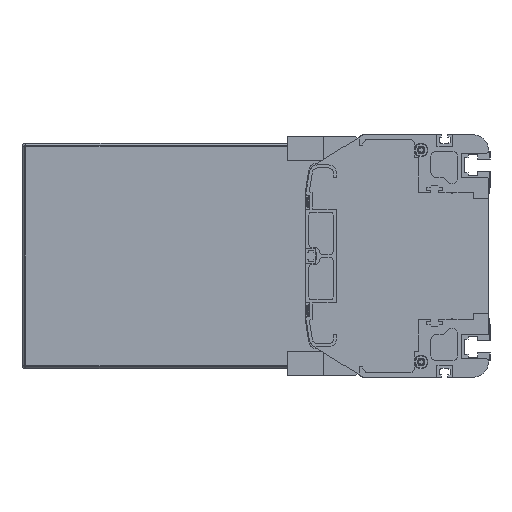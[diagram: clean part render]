
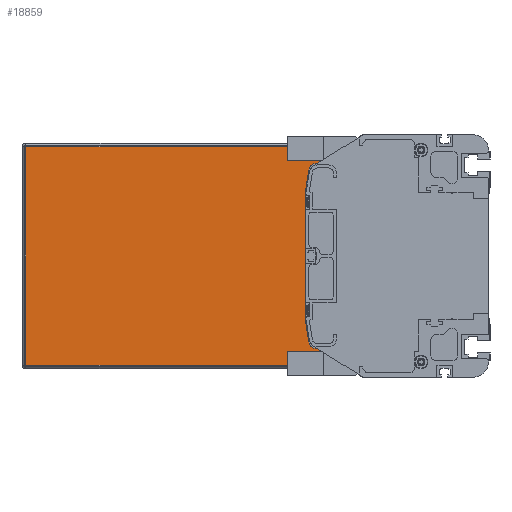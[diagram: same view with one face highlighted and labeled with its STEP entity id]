
A CAD part, left-side view. The second image highlights one B-rep face of the part: STEP entity #18859.
In plain terms, the highlighted planar face has unit normal (-1, 0, 0).
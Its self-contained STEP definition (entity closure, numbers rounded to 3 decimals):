
#1204=DIRECTION('',(0.,1.,0.));
#1205=VECTOR('',#1204,220.5);
#1206=CARTESIAN_POINT('',(1886.5,86.,72.));
#1207=LINE('',#1206,#1205);
#1255=DIRECTION('',(0.,-1.,0.));
#1256=VECTOR('',#1255,220.5);
#1257=CARTESIAN_POINT('',(1886.5,306.5,-72.));
#1258=LINE('',#1257,#1256);
#1314=DIRECTION('',(0.,0.,-1.));
#1315=VECTOR('',#1314,144.);
#1316=CARTESIAN_POINT('',(1886.5,306.5,72.));
#1317=LINE('',#1316,#1315);
#1349=CARTESIAN_POINT('',(1886.5,114.728,56.));
#1350=DIRECTION('',(-1.,0.,0.));
#1351=DIRECTION('',(0.,0.,1.));
#1352=AXIS2_PLACEMENT_3D('',#1349,#1350,#1351);
#1354=DIRECTION('',(0.,0.156,-0.988));
#1355=VECTOR('',#1354,14.963);
#1356=CARTESIAN_POINT('',(1886.5,119.666,56.78));
#1357=LINE('',#1356,#1355);
#1358=DIRECTION('',(0.,-0.156,-0.988));
#1359=VECTOR('',#1358,14.963);
#1360=CARTESIAN_POINT('',(1886.5,122.,-42.));
#1361=LINE('',#1360,#1359);
#1362=CARTESIAN_POINT('',(1886.5,114.728,-56.));
#1363=DIRECTION('',(-1.,0.,0.));
#1364=DIRECTION('',(0.,0.988,-0.156));
#1365=AXIS2_PLACEMENT_3D('',#1362,#1363,#1364);
#1372=DIRECTION('',(0.,0.,-1.));
#1373=VECTOR('',#1372,11.);
#1374=CARTESIAN_POINT('',(1886.5,86.,-61.));
#1375=LINE('',#1374,#1373);
#1381=DIRECTION('',(0.,0.,-1.));
#1382=VECTOR('',#1381,11.);
#1383=CARTESIAN_POINT('',(1886.5,86.,72.));
#1384=LINE('',#1383,#1382);
#3135=DIRECTION('',(0.,1.,0.));
#3136=VECTOR('',#3135,28.728);
#3137=CARTESIAN_POINT('',(1886.5,86.,-61.));
#3138=LINE('',#3137,#3136);
#3155=DIRECTION('',(0.,0.,1.));
#3156=VECTOR('',#3155,84.);
#3157=CARTESIAN_POINT('',(1886.5,122.,-42.));
#3158=LINE('',#3157,#3156);
#3179=DIRECTION('',(0.,-1.,0.));
#3180=VECTOR('',#3179,28.728);
#3181=CARTESIAN_POINT('',(1886.5,114.728,61.));
#3182=LINE('',#3181,#3180);
#14255=CARTESIAN_POINT('',(1886.5,306.5,-72.));
#14256=CARTESIAN_POINT('',(1886.5,86.,-72.));
#14257=VERTEX_POINT('',#14255);
#14258=VERTEX_POINT('',#14256);
#14259=CARTESIAN_POINT('',(1886.5,86.,-61.));
#14260=VERTEX_POINT('',#14259);
#14261=CARTESIAN_POINT('',(1886.5,114.728,-61.));
#14262=VERTEX_POINT('',#14261);
#14263=CARTESIAN_POINT('',(1886.5,119.666,-56.78));
#14264=VERTEX_POINT('',#14263);
#14265=CARTESIAN_POINT('',(1886.5,122.,-42.));
#14266=VERTEX_POINT('',#14265);
#14267=CARTESIAN_POINT('',(1886.5,122.,42.));
#14268=VERTEX_POINT('',#14267);
#14269=CARTESIAN_POINT('',(1886.5,119.666,56.78));
#14270=VERTEX_POINT('',#14269);
#14271=CARTESIAN_POINT('',(1886.5,114.728,61.));
#14272=VERTEX_POINT('',#14271);
#14273=CARTESIAN_POINT('',(1886.5,86.,61.));
#14274=VERTEX_POINT('',#14273);
#14275=CARTESIAN_POINT('',(1886.5,86.,72.));
#14276=VERTEX_POINT('',#14275);
#14277=CARTESIAN_POINT('',(1886.5,306.5,72.));
#14278=VERTEX_POINT('',#14277);
#18831=CARTESIAN_POINT('',(1886.5,196.25,0.));
#18832=DIRECTION('',(1.,0.,0.));
#18833=DIRECTION('',(0.,0.,-1.));
#18834=AXIS2_PLACEMENT_3D('',#18831,#18832,#18833);
#18835=PLANE('',#18834);
#18836=ORIENTED_EDGE('',*,*,#18704,.F.);
#18837=ORIENTED_EDGE('',*,*,#18800,.F.);
#18838=ORIENTED_EDGE('',*,*,#18655,.F.);
#18840=ORIENTED_EDGE('',*,*,#18839,.T.);
#18842=ORIENTED_EDGE('',*,*,#18841,.F.);
#18844=ORIENTED_EDGE('',*,*,#18843,.T.);
#18846=ORIENTED_EDGE('',*,*,#18845,.T.);
#18848=ORIENTED_EDGE('',*,*,#18847,.F.);
#18850=ORIENTED_EDGE('',*,*,#18849,.T.);
#18852=ORIENTED_EDGE('',*,*,#18851,.T.);
#18854=ORIENTED_EDGE('',*,*,#18853,.F.);
#18856=ORIENTED_EDGE('',*,*,#18855,.T.);
#18857=EDGE_LOOP('',(#18836,#18837,#18838,#18840,#18842,#18844,#18846,#18848,
#18850,#18852,#18854,#18856));
#18858=FACE_OUTER_BOUND('',#18857,.F.);
#18859=ADVANCED_FACE('',(#18858),#18835,.F.);
#1353=CIRCLE('',#1352,5.);
#1366=CIRCLE('',#1365,5.);
#18655=EDGE_CURVE('',#14276,#14278,#1207,.T.);
#18704=EDGE_CURVE('',#14257,#14258,#1258,.T.);
#18800=EDGE_CURVE('',#14278,#14257,#1317,.T.);
#18839=EDGE_CURVE('',#14276,#14274,#1384,.T.);
#18841=EDGE_CURVE('',#14272,#14274,#3182,.T.);
#18843=EDGE_CURVE('',#14272,#14270,#1353,.T.);
#18845=EDGE_CURVE('',#14270,#14268,#1357,.T.);
#18847=EDGE_CURVE('',#14266,#14268,#3158,.T.);
#18849=EDGE_CURVE('',#14266,#14264,#1361,.T.);
#18851=EDGE_CURVE('',#14264,#14262,#1366,.T.);
#18853=EDGE_CURVE('',#14260,#14262,#3138,.T.);
#18855=EDGE_CURVE('',#14260,#14258,#1375,.T.);
